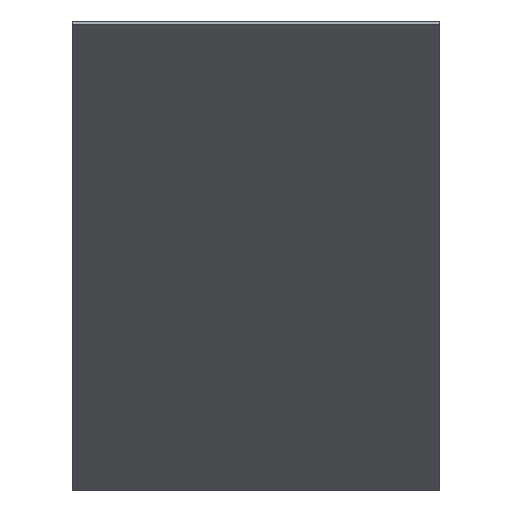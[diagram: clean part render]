
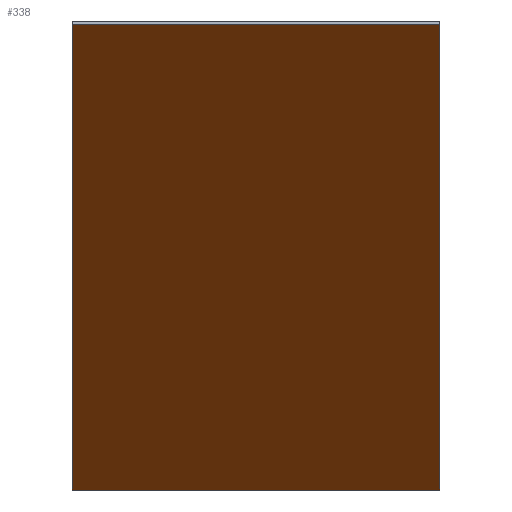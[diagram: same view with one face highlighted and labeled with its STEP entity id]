
A CAD part, front view. The second image highlights one B-rep face of the part: STEP entity #338.
In plain terms, the highlighted planar face has unit normal (0, -0.517, -0.856).
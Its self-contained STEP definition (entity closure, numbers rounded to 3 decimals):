
#24 = VERTEX_POINT('',#25);
#25 = CARTESIAN_POINT('',(-200.,-847.673,1516.348));
#32 = PLANE('',#33);
#33 = AXIS2_PLACEMENT_3D('',#34,#35,#36);
#34 = CARTESIAN_POINT('',(-200.,-846.123,1518.916));
#35 = DIRECTION('',(0.,-0.856,0.517));
#36 = DIRECTION('',(1.,0.,0.));
#44 = PLANE('',#45);
#45 = AXIS2_PLACEMENT_3D('',#46,#47,#48);
#46 = CARTESIAN_POINT('',(-200.,-1685.066,2025.448)
  );
#47 = DIRECTION('',(1.,0.,0.));
#48 = DIRECTION('',(0.,0.856,-0.517));
#56 = EDGE_CURVE('',#24,#57,#59,.T.);
#57 = VERTEX_POINT('',#58);
#58 = CARTESIAN_POINT('',(200.,-847.673,1516.348));
#59 = SURFACE_CURVE('',#60,(#64,#71),.PCURVE_S1.);
#60 = LINE('',#61,#62);
#61 = CARTESIAN_POINT('',(-200.,-847.673,1516.348));
#62 = VECTOR('',#63,1.);
#63 = DIRECTION('',(1.,0.,0.));
#64 = PCURVE('',#32,#65);
#65 = DEFINITIONAL_REPRESENTATION('',(#66),#70);
#66 = LINE('',#67,#68);
#67 = CARTESIAN_POINT('',(0.,-3.));
#68 = VECTOR('',#69,1.);
#69 = DIRECTION('',(1.,0.));
#70 = ( GEOMETRIC_REPRESENTATION_CONTEXT(2) 
PARAMETRIC_REPRESENTATION_CONTEXT() REPRESENTATION_CONTEXT('2D SPACE',''
  ) );
#71 = PCURVE('',#72,#77);
#72 = PLANE('',#73);
#73 = AXIS2_PLACEMENT_3D('',#74,#75,#76);
#74 = CARTESIAN_POINT('',(0.,-1267.145,1769.614));
#75 = DIRECTION('',(-0.,-0.517,-0.856));
#76 = DIRECTION('',(0.,-0.856,0.517));
#77 = DEFINITIONAL_REPRESENTATION('',(#78),#82);
#78 = LINE('',#79,#80);
#79 = CARTESIAN_POINT('',(-490.,200.));
#80 = VECTOR('',#81,1.);
#81 = DIRECTION('',(0.,-1.));
#82 = ( GEOMETRIC_REPRESENTATION_CONTEXT(2) 
PARAMETRIC_REPRESENTATION_CONTEXT() REPRESENTATION_CONTEXT('2D SPACE',''
  ) );
#100 = PLANE('',#101);
#101 = AXIS2_PLACEMENT_3D('',#102,#103,#104);
#102 = CARTESIAN_POINT('',(200.,-846.123,1518.916));
#103 = DIRECTION('',(-1.,-0.,0.));
#104 = DIRECTION('',(0.,-0.856,0.517));
#142 = EDGE_CURVE('',#57,#143,#145,.T.);
#143 = VERTEX_POINT('',#144);
#144 = CARTESIAN_POINT('',(200.,-1686.616,2022.88));
#145 = SURFACE_CURVE('',#146,(#150,#157),.PCURVE_S1.);
#146 = LINE('',#147,#148);
#147 = CARTESIAN_POINT('',(200.,-847.673,1516.348));
#148 = VECTOR('',#149,1.);
#149 = DIRECTION('',(0.,-0.856,0.517));
#150 = PCURVE('',#100,#151);
#151 = DEFINITIONAL_REPRESENTATION('',(#152),#156);
#152 = LINE('',#153,#154);
#153 = CARTESIAN_POINT('',(0.,-3.));
#154 = VECTOR('',#155,1.);
#155 = DIRECTION('',(1.,0.));
#156 = ( GEOMETRIC_REPRESENTATION_CONTEXT(2) 
PARAMETRIC_REPRESENTATION_CONTEXT() REPRESENTATION_CONTEXT('2D SPACE',''
  ) );
#157 = PCURVE('',#72,#158);
#158 = DEFINITIONAL_REPRESENTATION('',(#159),#163);
#159 = LINE('',#160,#161);
#160 = CARTESIAN_POINT('',(-490.,-200.));
#161 = VECTOR('',#162,1.);
#162 = DIRECTION('',(1.,0.));
#163 = ( GEOMETRIC_REPRESENTATION_CONTEXT(2) 
PARAMETRIC_REPRESENTATION_CONTEXT() REPRESENTATION_CONTEXT('2D SPACE',''
  ) );
#181 = PLANE('',#182);
#182 = AXIS2_PLACEMENT_3D('',#183,#184,#185);
#183 = CARTESIAN_POINT('',(200.,-1685.066,2025.448)
  );
#184 = DIRECTION('',(0.,0.856,-0.517));
#185 = DIRECTION('',(-1.,0.,0.));
#218 = EDGE_CURVE('',#143,#219,#221,.T.);
#219 = VERTEX_POINT('',#220);
#220 = CARTESIAN_POINT('',(-200.,-1686.616,2022.88)
  );
#221 = SURFACE_CURVE('',#222,(#226,#233),.PCURVE_S1.);
#222 = LINE('',#223,#224);
#223 = CARTESIAN_POINT('',(200.,-1686.616,2022.88));
#224 = VECTOR('',#225,1.);
#225 = DIRECTION('',(-1.,0.,0.));
#226 = PCURVE('',#181,#227);
#227 = DEFINITIONAL_REPRESENTATION('',(#228),#232);
#228 = LINE('',#229,#230);
#229 = CARTESIAN_POINT('',(-0.,-3.));
#230 = VECTOR('',#231,1.);
#231 = DIRECTION('',(1.,0.));
#232 = ( GEOMETRIC_REPRESENTATION_CONTEXT(2) 
PARAMETRIC_REPRESENTATION_CONTEXT() REPRESENTATION_CONTEXT('2D SPACE',''
  ) );
#233 = PCURVE('',#72,#234);
#234 = DEFINITIONAL_REPRESENTATION('',(#235),#239);
#235 = LINE('',#236,#237);
#236 = CARTESIAN_POINT('',(490.,-200.));
#237 = VECTOR('',#238,1.);
#238 = DIRECTION('',(0.,1.));
#239 = ( GEOMETRIC_REPRESENTATION_CONTEXT(2) 
PARAMETRIC_REPRESENTATION_CONTEXT() REPRESENTATION_CONTEXT('2D SPACE',''
  ) );
#289 = EDGE_CURVE('',#219,#24,#290,.T.);
#290 = SURFACE_CURVE('',#291,(#295,#302),.PCURVE_S1.);
#291 = LINE('',#292,#293);
#292 = CARTESIAN_POINT('',(-200.,-1686.616,2022.88)
  );
#293 = VECTOR('',#294,1.);
#294 = DIRECTION('',(0.,0.856,-0.517));
#295 = PCURVE('',#44,#296);
#296 = DEFINITIONAL_REPRESENTATION('',(#297),#301);
#297 = LINE('',#298,#299);
#298 = CARTESIAN_POINT('',(0.,-3.));
#299 = VECTOR('',#300,1.);
#300 = DIRECTION('',(1.,0.));
#301 = ( GEOMETRIC_REPRESENTATION_CONTEXT(2) 
PARAMETRIC_REPRESENTATION_CONTEXT() REPRESENTATION_CONTEXT('2D SPACE',''
  ) );
#302 = PCURVE('',#72,#303);
#303 = DEFINITIONAL_REPRESENTATION('',(#304),#308);
#304 = LINE('',#305,#306);
#305 = CARTESIAN_POINT('',(490.,200.));
#306 = VECTOR('',#307,1.);
#307 = DIRECTION('',(-1.,0.));
#308 = ( GEOMETRIC_REPRESENTATION_CONTEXT(2) 
PARAMETRIC_REPRESENTATION_CONTEXT() REPRESENTATION_CONTEXT('2D SPACE',''
  ) );
#338 = ADVANCED_FACE('',(#339),#72,.T.);
#339 = FACE_BOUND('',#340,.T.);
#340 = EDGE_LOOP('',(#341,#342,#343,#344));
#341 = ORIENTED_EDGE('',*,*,#56,.T.);
#342 = ORIENTED_EDGE('',*,*,#142,.T.);
#343 = ORIENTED_EDGE('',*,*,#218,.T.);
#344 = ORIENTED_EDGE('',*,*,#289,.T.);
